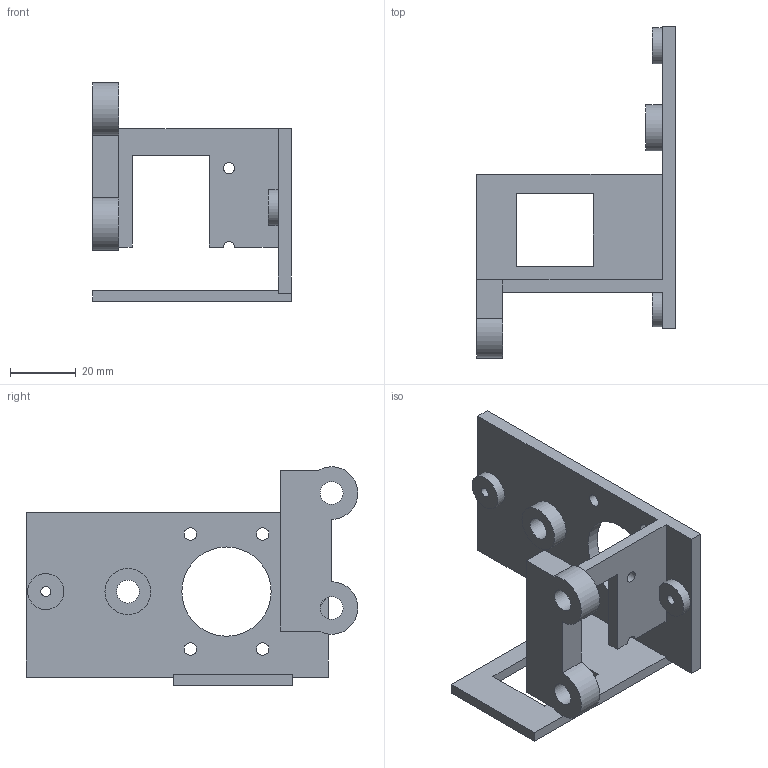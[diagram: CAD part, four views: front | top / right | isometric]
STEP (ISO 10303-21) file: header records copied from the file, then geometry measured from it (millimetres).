
FILE_DESCRIPTION(('Open CASCADE Model'),'2;1');
FILE_NAME('Open CASCADE Shape Model','2026-10-16T00:24:49',('Author'),( 'Open CASCADE'),'Open CASCADE STEP processor 7.9','Open CASCADE 7.9' ,'Unknown');
FILE_SCHEMA(('AUTOMOTIVE_DESIGN { 1 0 10303 214 1 1 1 1 }'));
Length unit declared in the file: millimetre
Products named in the file (1): Open CASCADE STEP translator 7.9 6
Bounding box: 60.5 x 101 x 66.5 mm (x, y, z)
Volume: 33162.8 mm3; surface area: 19971 mm2
Topology: 1 solids, 1 shells, 48 faces, 132 edges, 88 vertices
Faces by surface type: plane 31, cylinder 17
Full cylindrical faces by diameter (mm): 3 x2, 3.4 x1, 3.8 x4, 7 x3, 11 x1, 14 x1, 27.2 x1
Entity records: 3319 total; most frequent: CARTESIAN_POINT 761, DIRECTION 435, ORIENTED_EDGE 264, PCURVE 264, DEFINITIONAL_REPRESENTATION 264, LINE 262, VECTOR 262, EDGE_CURVE 132
